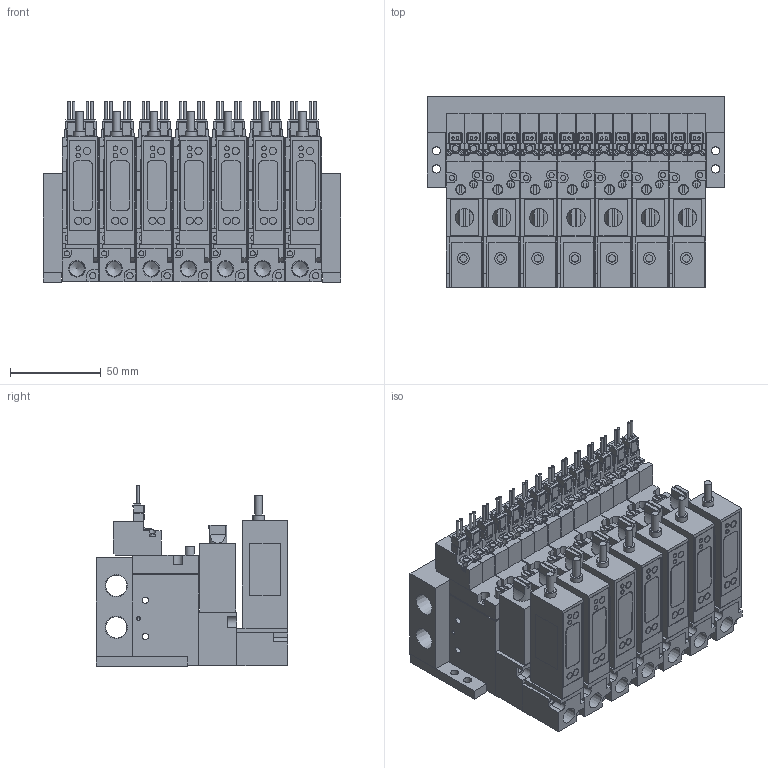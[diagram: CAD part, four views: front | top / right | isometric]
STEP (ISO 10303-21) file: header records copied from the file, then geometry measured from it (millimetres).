
FILE_DESCRIPTION(('STEP AP203'),'1');
FILE_NAME('BMPV32M2NV(R)G25BL707.stp','2025-06-17T01:09:35',(' '),(' '),'Spatial InterOp 3D',' ',' ');
FILE_SCHEMA(('CONFIG_CONTROL_DESIGN'));
Length unit declared in the file: millimetre
Products named in the file (88): BMPV32M2NV(R)G25BL707; Pressure sensor VGL; ___-3(Rc); Filter Assy; __; _____; ___ ___; MB BRACKET; BMPV32 MB07; ___; upper plate-A; ______; ____; VACUUM VALVE FUNCTION MPV42-A
Assembly tree (87 placements, depth 2):
  BMPV32M2NV(R)G25BL707
    Pressure sensor VGL
    ___-3(Rc)
    Filter Assy
    __
    _____
    ___ ___
    Pressure sensor VGL
    ___-3(Rc)
    Filter Assy
    __
    _____
    ___ ___
    Pressure sensor VGL
    ___-3(Rc)
    Filter Assy
    __
    _____
    ___ ___
    Pressure sensor VGL
    ___-3(Rc)
    Filter Assy
    __
    _____
    ___ ___
    Pressure sensor VGL
    ___-3(Rc)
    Filter Assy
    __
    _____
    ___ ___
    Pressure sensor VGL
    ___-3(Rc)
    Filter Assy
    __
    _____
    ___ ___
    MB BRACKET
    MB BRACKET
    BMPV32 MB07
    Pressure sensor VGL
    ___-3(Rc)
    Filter Assy
    __
    _____
    ___ ___
    ___
    upper plate-A
    ______
    ____
    VACUUM VALVE FUNCTION MPV42-A
    VACUUM VALVE FUNCTION MPV42-A
    ___
    upper plate-A
    ______
    ____
    VACUUM VALVE FUNCTION MPV42-A
    VACUUM VALVE FUNCTION MPV42-A
    ___
    upper plate-A
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Bounding box: 164 x 105.5 x 99.75 mm (x, y, z)
Volume: 918637 mm3; surface area: 298321.3 mm2
Topology: 87 solids, 87 shells, 2665 faces, 6925 edges, 4621 vertices
Faces by surface type: plane 2128, cylinder 480, cone 57
Full cylindrical faces by diameter (mm): 1.4 x28, 1.8 x14, 2 x14, 2.5 x32, 2.8 x28, 3 x28, 3.5 x74, 4 x35, 4.2 x7, 4.5 x4, 5 x7, 5.5 x7, 6.5 x13, 8.2 x7, 8.759 x7, 11.776 x2
Entity records: 82963 total; most frequent: CARTESIAN_POINT 14134, DIRECTION 13069, ORIENTED_EDGE 12750, EDGE_CURVE 6375, LINE 5131, VECTOR 5131, VERTEX_POINT 4488, AXIS2_PLACEMENT_3D 3969
